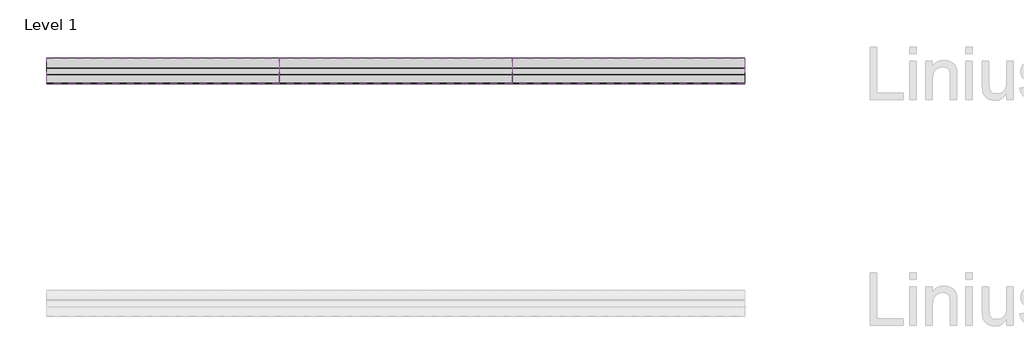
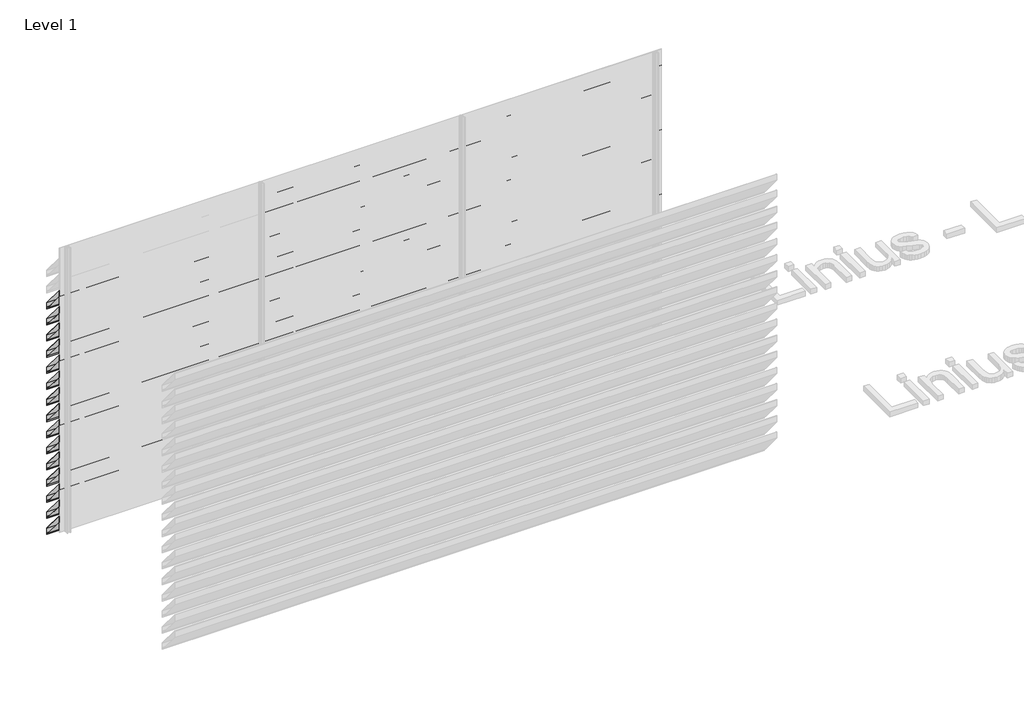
# One storey, part 14 of 121: 49 proxies.
"""IFC4 building model written with IfcOpenShell, lengths in millimetres."""

from ifc_helpers import new_model, si_unit, frame, origin, place, context, project, spatial, polyline, outline, extrude, element, save

model = new_model("IFC4")

# Units and contexts
model_context = context("Model", 3, world=origin())
ifc_project = project(units=[si_unit("LENGTHUNIT", "METRE", prefix="MILLI")], contexts=[model_context])

# Site, building, storey
site = spatial("IfcSite", under=ifc_project)
building = spatial("IfcBuilding", under=site)
storey = spatial("IfcBuildingStorey", under=building, Name="Level 1", Elevation=0.0)

# Proxies
placement = place(None, origin())
element("IfcBuildingElementProxy", 1, Name="Wall Sweeps", at=placement, inside=storey, context=model_context, shape_type="SweptSolid", body=[
    extrude(outline(polyline([(21705.0540136, 2291.0), (21705.0540136, 2222.0), (21702.5540136, 2223.1657691), (21702.5540136, 2236.7059843), (21685.8041465, 2256.6676986), (21675.1189071, 2256.6676986), (21483.0540136, 2485.5617253), (21483.0540136, 2550.0), (21487.7272091, 2550.0), (21705.0540136, 2291.0)]), holes=[polyline([(21486.8412246, 2548.1), (21484.9540136, 2548.1), (21484.9540136, 2486.2532688), (21676.0048916, 2258.5676986), (21686.6901311, 2258.5676986), (21703.1540136, 2238.9468074), (21703.1540136, 2290.3084566), (21486.8412246, 2548.1)])]), frame((466.6208097, 0.0, 0.0), z_axis=(1.0, 0.0, 0.0), x_axis=(0.0, 1.0, 0.0)), (0.0, 0.0, 1.0), 2000.0),
])
element("IfcBuildingElementProxy", 2, Name="Wall Sweeps", at=placement, inside=storey, context=model_context, shape_type="SweptSolid", body=[
    extrude(outline(polyline([(21705.0540136, 2121.0), (21705.0540136, 2052.0), (21702.5540136, 2053.1657691), (21702.5540136, 2066.7059843), (21685.8041465, 2086.6676986), (21675.1189071, 2086.6676986), (21483.0540136, 2315.5617253), (21483.0540136, 2380.0), (21487.7272091, 2380.0), (21705.0540136, 2121.0)]), holes=[polyline([(21486.8412246, 2378.1), (21484.9540136, 2378.1), (21484.9540136, 2316.2532688), (21676.0048916, 2088.5676986), (21686.6901311, 2088.5676986), (21703.1540136, 2068.9468074), (21703.1540136, 2120.3084566), (21486.8412246, 2378.1)])]), frame((466.6208097, 0.0, 0.0), z_axis=(1.0, 0.0, 0.0), x_axis=(0.0, 1.0, 0.0)), (0.0, 0.0, 1.0), 2000.0),
])
element("IfcBuildingElementProxy", 3, Name="Wall Sweeps", at=placement, inside=storey, context=model_context, shape_type="SweptSolid", body=[
    extrude(outline(polyline([(21705.0540136, 1951.0), (21705.0540136, 1882.0), (21702.5540136, 1883.1657691), (21702.5540136, 1896.7059843), (21685.8041465, 1916.6676986), (21675.1189071, 1916.6676986), (21483.0540136, 2145.5617253), (21483.0540136, 2210.0), (21487.7272091, 2210.0), (21705.0540136, 1951.0)]), holes=[polyline([(21486.8412246, 2208.1), (21484.9540136, 2208.1), (21484.9540136, 2146.2532688), (21676.0048916, 1918.5676986), (21686.6901311, 1918.5676986), (21703.1540136, 1898.9468074), (21703.1540136, 1950.3084566), (21486.8412246, 2208.1)])]), frame((466.6208097, 0.0, 0.0), z_axis=(1.0, 0.0, 0.0), x_axis=(0.0, 1.0, 0.0)), (0.0, 0.0, 1.0), 2000.0),
])
element("IfcBuildingElementProxy", 4, Name="Wall Sweeps", at=placement, inside=storey, context=model_context, shape_type="SweptSolid", body=[
    extrude(outline(polyline([(21705.0540136, 1781.0), (21705.0540136, 1712.0), (21702.5540136, 1713.1657691), (21702.5540136, 1726.7059843), (21685.8041465, 1746.6676986), (21675.1189071, 1746.6676986), (21483.0540136, 1975.5617253), (21483.0540136, 2040.0), (21487.7272091, 2040.0), (21705.0540136, 1781.0)]), holes=[polyline([(21486.8412246, 2038.1), (21484.9540136, 2038.1), (21484.9540136, 1976.2532688), (21676.0048916, 1748.5676986), (21686.6901311, 1748.5676986), (21703.1540136, 1728.9468074), (21703.1540136, 1780.3084566), (21486.8412246, 2038.1)])]), frame((466.6208097, 0.0, 0.0), z_axis=(1.0, 0.0, 0.0), x_axis=(0.0, 1.0, 0.0)), (0.0, 0.0, 1.0), 2000.0),
])
element("IfcBuildingElementProxy", 5, Name="Wall Sweeps", at=placement, inside=storey, context=model_context, shape_type="SweptSolid", body=[
    extrude(outline(polyline([(21705.0540136, 1611.0), (21705.0540136, 1542.0), (21702.5540136, 1543.1657691), (21702.5540136, 1556.7059843), (21685.8041465, 1576.6676986), (21675.1189071, 1576.6676986), (21483.0540136, 1805.5617253), (21483.0540136, 1870.0), (21487.7272091, 1870.0), (21705.0540136, 1611.0)]), holes=[polyline([(21486.8412246, 1868.1), (21484.9540136, 1868.1), (21484.9540136, 1806.2532688), (21676.0048916, 1578.5676986), (21686.6901311, 1578.5676986), (21703.1540136, 1558.9468074), (21703.1540136, 1610.3084566), (21486.8412246, 1868.1)])]), frame((466.6208097, 0.0, 0.0), z_axis=(1.0, 0.0, 0.0), x_axis=(0.0, 1.0, 0.0)), (0.0, 0.0, 1.0), 2000.0),
])
element("IfcBuildingElementProxy", 6, Name="Wall Sweeps", at=placement, inside=storey, context=model_context, shape_type="SweptSolid", body=[
    extrude(outline(polyline([(21705.0540136, 1441.0), (21705.0540136, 1372.0), (21702.5540136, 1373.1657691), (21702.5540136, 1386.7059843), (21685.8041465, 1406.6676986), (21675.1189071, 1406.6676986), (21483.0540136, 1635.5617253), (21483.0540136, 1700.0), (21487.7272091, 1700.0), (21705.0540136, 1441.0)]), holes=[polyline([(21486.8412246, 1698.1), (21484.9540136, 1698.1), (21484.9540136, 1636.2532688), (21676.0048916, 1408.5676986), (21686.6901311, 1408.5676986), (21703.1540136, 1388.9468074), (21703.1540136, 1440.3084566), (21486.8412246, 1698.1)])]), frame((466.6208097, 0.0, 0.0), z_axis=(1.0, 0.0, 0.0), x_axis=(0.0, 1.0, 0.0)), (0.0, 0.0, 1.0), 2000.0),
])
element("IfcBuildingElementProxy", 7, Name="Wall Sweeps", at=placement, inside=storey, context=model_context, shape_type="SweptSolid", body=[
    extrude(outline(polyline([(21705.0540136, 1271.0), (21705.0540136, 1202.0), (21702.5540136, 1203.1657691), (21702.5540136, 1216.7059843), (21685.8041465, 1236.6676986), (21675.1189071, 1236.6676986), (21483.0540136, 1465.5617253), (21483.0540136, 1530.0), (21487.7272091, 1530.0), (21705.0540136, 1271.0)]), holes=[polyline([(21486.8412246, 1528.1), (21484.9540136, 1528.1), (21484.9540136, 1466.2532688), (21676.0048916, 1238.5676986), (21686.6901311, 1238.5676986), (21703.1540136, 1218.9468074), (21703.1540136, 1270.3084566), (21486.8412246, 1528.1)])]), frame((466.6208097, 0.0, 0.0), z_axis=(1.0, 0.0, 0.0), x_axis=(0.0, 1.0, 0.0)), (0.0, 0.0, 1.0), 2000.0),
])
element("IfcBuildingElementProxy", 8, Name="Wall Sweeps", at=placement, inside=storey, context=model_context, shape_type="SweptSolid", body=[
    extrude(outline(polyline([(21705.0540136, 1101.0), (21705.0540136, 1032.0), (21702.5540136, 1033.1657691), (21702.5540136, 1046.7059843), (21685.8041465, 1066.6676986), (21675.1189071, 1066.6676986), (21483.0540136, 1295.5617253), (21483.0540136, 1360.0), (21487.7272091, 1360.0), (21705.0540136, 1101.0)]), holes=[polyline([(21486.8412246, 1358.1), (21484.9540136, 1358.1), (21484.9540136, 1296.2532688), (21676.0048916, 1068.5676986), (21686.6901311, 1068.5676986), (21703.1540136, 1048.9468074), (21703.1540136, 1100.3084566), (21486.8412246, 1358.1)])]), frame((466.6208097, 0.0, 0.0), z_axis=(1.0, 0.0, 0.0), x_axis=(0.0, 1.0, 0.0)), (0.0, 0.0, 1.0), 2000.0),
])
element("IfcBuildingElementProxy", 9, Name="Wall Sweeps", at=placement, inside=storey, context=model_context, shape_type="SweptSolid", body=[
    extrude(outline(polyline([(21705.0540136, 931.0), (21705.0540136, 862.0), (21702.5540136, 863.1657691), (21702.5540136, 876.7059843), (21685.8041465, 896.6676986), (21675.1189071, 896.6676986), (21483.0540136, 1125.5617253), (21483.0540136, 1190.0), (21487.7272091, 1190.0), (21705.0540136, 931.0)]), holes=[polyline([(21486.8412246, 1188.1), (21484.9540136, 1188.1), (21484.9540136, 1126.2532688), (21676.0048916, 898.5676986), (21686.6901311, 898.5676986), (21703.1540136, 878.9468074), (21703.1540136, 930.3084566), (21486.8412246, 1188.1)])]), frame((466.6208097, 0.0, 0.0), z_axis=(1.0, 0.0, 0.0), x_axis=(0.0, 1.0, 0.0)), (0.0, 0.0, 1.0), 2000.0),
])
element("IfcBuildingElementProxy", 10, Name="Wall Sweeps", at=placement, inside=storey, context=model_context, shape_type="SweptSolid", body=[
    extrude(outline(polyline([(21705.0540136, 761.0), (21705.0540136, 692.0), (21702.5540136, 693.1657691), (21702.5540136, 706.7059843), (21685.8041465, 726.6676986), (21675.1189071, 726.6676986), (21483.0540136, 955.5617253), (21483.0540136, 1020.0), (21487.7272091, 1020.0), (21705.0540136, 761.0)]), holes=[polyline([(21486.8412246, 1018.1), (21484.9540136, 1018.1), (21484.9540136, 956.2532688), (21676.0048916, 728.5676986), (21686.6901311, 728.5676986), (21703.1540136, 708.9468074), (21703.1540136, 760.3084566), (21486.8412246, 1018.1)])]), frame((466.6208097, 0.0, 0.0), z_axis=(1.0, 0.0, 0.0), x_axis=(0.0, 1.0, 0.0)), (0.0, 0.0, 1.0), 2000.0),
])
element("IfcBuildingElementProxy", 11, Name="Wall Sweeps", at=placement, inside=storey, context=model_context, shape_type="SweptSolid", body=[
    extrude(outline(polyline([(21705.0540136, 591.0), (21705.0540136, 522.0), (21702.5540136, 523.1657691), (21702.5540136, 536.7059843), (21685.8041465, 556.6676986), (21675.1189071, 556.6676986), (21483.0540136, 785.5617253), (21483.0540136, 850.0), (21487.7272091, 850.0), (21705.0540136, 591.0)]), holes=[polyline([(21486.8412246, 848.1), (21484.9540136, 848.1), (21484.9540136, 786.2532688), (21676.0048916, 558.5676986), (21686.6901311, 558.5676986), (21703.1540136, 538.9468074), (21703.1540136, 590.3084566), (21486.8412246, 848.1)])]), frame((466.6208097, 0.0, 0.0), z_axis=(1.0, 0.0, 0.0), x_axis=(0.0, 1.0, 0.0)), (0.0, 0.0, 1.0), 2000.0),
])
element("IfcBuildingElementProxy", 12, Name="Wall Sweeps", at=placement, inside=storey, context=model_context, shape_type="SweptSolid", body=[
    extrude(outline(polyline([(21705.0540136, 421.0), (21705.0540136, 352.0), (21702.5540136, 353.1657691), (21702.5540136, 366.7059843), (21685.8041465, 386.6676986), (21675.1189071, 386.6676986), (21483.0540136, 615.5617253), (21483.0540136, 680.0), (21487.7272091, 680.0), (21705.0540136, 421.0)]), holes=[polyline([(21486.8412246, 678.1), (21484.9540136, 678.1), (21484.9540136, 616.2532688), (21676.0048916, 388.5676986), (21686.6901311, 388.5676986), (21703.1540136, 368.9468074), (21703.1540136, 420.3084566), (21486.8412246, 678.1)])]), frame((466.6208097, 0.0, 0.0), z_axis=(1.0, 0.0, 0.0), x_axis=(0.0, 1.0, 0.0)), (0.0, 0.0, 1.0), 2000.0),
])
element("IfcBuildingElementProxy", 13, Name="Wall Sweeps", at=placement, inside=storey, context=model_context, shape_type="SweptSolid", body=[
    extrude(outline(polyline([(21705.0540136, 251.0), (21705.0540136, 182.0), (21702.5540136, 183.1657691), (21702.5540136, 196.7059843), (21685.8041465, 216.6676986), (21675.1189071, 216.6676986), (21483.0540136, 445.5617253), (21483.0540136, 510.0), (21487.7272091, 510.0), (21705.0540136, 251.0)]), holes=[polyline([(21486.8412246, 508.1), (21484.9540136, 508.1), (21484.9540136, 446.2532688), (21676.0048916, 218.5676986), (21686.6901311, 218.5676986), (21703.1540136, 198.9468074), (21703.1540136, 250.3084566), (21486.8412246, 508.1)])]), frame((466.6208097, 0.0, 0.0), z_axis=(1.0, 0.0, 0.0), x_axis=(0.0, 1.0, 0.0)), (0.0, 0.0, 1.0), 2000.0),
])
element("IfcBuildingElementProxy", 14, Name="Wall Sweeps", at=placement, inside=storey, context=model_context, shape_type="SweptSolid", body=[
    extrude(outline(polyline([(21705.0540136, 81.0), (21705.0540136, 12.0), (21702.5540136, 13.1657691), (21702.5540136, 26.7059843), (21685.8041465, 46.6676986), (21675.1189071, 46.6676986), (21483.0540136, 275.5617253), (21483.0540136, 340.0), (21487.7272091, 340.0), (21705.0540136, 81.0)]), holes=[polyline([(21486.8412246, 338.1), (21484.9540136, 338.1), (21484.9540136, 276.2532688), (21676.0048916, 48.5676986), (21686.6901311, 48.5676986), (21703.1540136, 28.9468074), (21703.1540136, 80.3084566), (21486.8412246, 338.1)])]), frame((466.6208097, 0.0, 0.0), z_axis=(1.0, 0.0, 0.0), x_axis=(0.0, 1.0, 0.0)), (0.0, 0.0, 1.0), 2000.0),
])
element("IfcBuildingElementProxy", 15, Name="Wall Sweeps", at=placement, inside=storey, context=model_context, shape_type="SweptSolid", body=[
    extrude(outline(polyline([(21705.0540136, -89.0), (21705.0540136, -158.0), (21702.5540136, -156.8342309), (21702.5540136, -143.2940157), (21685.8041465, -123.3323014), (21675.1189071, -123.3323014), (21483.0540136, 105.5617253), (21483.0540136, 170.0), (21487.7272091, 170.0), (21705.0540136, -89.0)]), holes=[polyline([(21486.8412246, 168.1), (21484.9540136, 168.1), (21484.9540136, 106.2532688), (21676.0048916, -121.4323014), (21686.6901311, -121.4323014), (21703.1540136, -141.0531926), (21703.1540136, -89.6915434), (21486.8412246, 168.1)])]), frame((466.6208097, 0.0, 0.0), z_axis=(1.0, 0.0, 0.0), x_axis=(0.0, 1.0, 0.0)), (0.0, 0.0, 1.0), 2000.0),
])
element("IfcBuildingElementProxy", 16, Name="Wall Sweeps", at=placement, inside=storey, context=model_context, shape_type="SweptSolid", body=[
    extrude(outline(polyline([(21705.0540136, 2631.0), (21705.0540136, 2562.0), (21702.5540136, 2563.1657691), (21702.5540136, 2576.7059843), (21685.8041465, 2596.6676986), (21675.1189071, 2596.6676986), (21483.0540136, 2825.5617253), (21483.0540136, 2890.0), (21487.7272091, 2890.0), (21705.0540136, 2631.0)]), holes=[polyline([(21486.8412246, 2888.1), (21484.9540136, 2888.1), (21484.9540136, 2826.2532688), (21676.0048916, 2598.5676986), (21686.6901311, 2598.5676986), (21703.1540136, 2578.9468074), (21703.1540136, 2630.3084566), (21486.8412246, 2888.1)])]), frame((2466.6208097, 0.0, 0.0), z_axis=(1.0, 0.0, 0.0), x_axis=(0.0, 1.0, 0.0)), (0.0, 0.0, 1.0), 2000.0),
])
element("IfcBuildingElementProxy", 17, Name="Wall Sweeps", at=placement, inside=storey, context=model_context, shape_type="SweptSolid", body=[
    extrude(outline(polyline([(21705.0540136, 2461.0), (21705.0540136, 2392.0), (21702.5540136, 2393.1657691), (21702.5540136, 2406.7059843), (21685.8041465, 2426.6676986), (21675.1189071, 2426.6676986), (21483.0540136, 2655.5617253), (21483.0540136, 2720.0), (21487.7272091, 2720.0), (21705.0540136, 2461.0)]), holes=[polyline([(21486.8412246, 2718.1), (21484.9540136, 2718.1), (21484.9540136, 2656.2532688), (21676.0048916, 2428.5676986), (21686.6901311, 2428.5676986), (21703.1540136, 2408.9468074), (21703.1540136, 2460.3084566), (21486.8412246, 2718.1)])]), frame((2466.6208097, 0.0, 0.0), z_axis=(1.0, 0.0, 0.0), x_axis=(0.0, 1.0, 0.0)), (0.0, 0.0, 1.0), 2000.0),
])
element("IfcBuildingElementProxy", 18, Name="Wall Sweeps", at=placement, inside=storey, context=model_context, shape_type="SweptSolid", body=[
    extrude(outline(polyline([(21705.0540136, 2291.0), (21705.0540136, 2222.0), (21702.5540136, 2223.1657691), (21702.5540136, 2236.7059843), (21685.8041465, 2256.6676986), (21675.1189071, 2256.6676986), (21483.0540136, 2485.5617253), (21483.0540136, 2550.0), (21487.7272091, 2550.0), (21705.0540136, 2291.0)]), holes=[polyline([(21486.8412246, 2548.1), (21484.9540136, 2548.1), (21484.9540136, 2486.2532688), (21676.0048916, 2258.5676986), (21686.6901311, 2258.5676986), (21703.1540136, 2238.9468074), (21703.1540136, 2290.3084566), (21486.8412246, 2548.1)])]), frame((2466.6208097, 0.0, 0.0), z_axis=(1.0, 0.0, 0.0), x_axis=(0.0, 1.0, 0.0)), (0.0, 0.0, 1.0), 2000.0),
])
element("IfcBuildingElementProxy", 19, Name="Wall Sweeps", at=placement, inside=storey, context=model_context, shape_type="SweptSolid", body=[
    extrude(outline(polyline([(21705.0540136, 2121.0), (21705.0540136, 2052.0), (21702.5540136, 2053.1657691), (21702.5540136, 2066.7059843), (21685.8041465, 2086.6676986), (21675.1189071, 2086.6676986), (21483.0540136, 2315.5617253), (21483.0540136, 2380.0), (21487.7272091, 2380.0), (21705.0540136, 2121.0)]), holes=[polyline([(21486.8412246, 2378.1), (21484.9540136, 2378.1), (21484.9540136, 2316.2532688), (21676.0048916, 2088.5676986), (21686.6901311, 2088.5676986), (21703.1540136, 2068.9468074), (21703.1540136, 2120.3084566), (21486.8412246, 2378.1)])]), frame((2466.6208097, 0.0, 0.0), z_axis=(1.0, 0.0, 0.0), x_axis=(0.0, 1.0, 0.0)), (0.0, 0.0, 1.0), 2000.0),
])
element("IfcBuildingElementProxy", 20, Name="Wall Sweeps", at=placement, inside=storey, context=model_context, shape_type="SweptSolid", body=[
    extrude(outline(polyline([(21705.0540136, 1951.0), (21705.0540136, 1882.0), (21702.5540136, 1883.1657691), (21702.5540136, 1896.7059843), (21685.8041465, 1916.6676986), (21675.1189071, 1916.6676986), (21483.0540136, 2145.5617253), (21483.0540136, 2210.0), (21487.7272091, 2210.0), (21705.0540136, 1951.0)]), holes=[polyline([(21486.8412246, 2208.1), (21484.9540136, 2208.1), (21484.9540136, 2146.2532688), (21676.0048916, 1918.5676986), (21686.6901311, 1918.5676986), (21703.1540136, 1898.9468074), (21703.1540136, 1950.3084566), (21486.8412246, 2208.1)])]), frame((2466.6208097, 0.0, 0.0), z_axis=(1.0, 0.0, 0.0), x_axis=(0.0, 1.0, 0.0)), (0.0, 0.0, 1.0), 2000.0),
])
element("IfcBuildingElementProxy", 21, Name="Wall Sweeps", at=placement, inside=storey, context=model_context, shape_type="SweptSolid", body=[
    extrude(outline(polyline([(21705.0540136, 1781.0), (21705.0540136, 1712.0), (21702.5540136, 1713.1657691), (21702.5540136, 1726.7059843), (21685.8041465, 1746.6676986), (21675.1189071, 1746.6676986), (21483.0540136, 1975.5617253), (21483.0540136, 2040.0), (21487.7272091, 2040.0), (21705.0540136, 1781.0)]), holes=[polyline([(21486.8412246, 2038.1), (21484.9540136, 2038.1), (21484.9540136, 1976.2532688), (21676.0048916, 1748.5676986), (21686.6901311, 1748.5676986), (21703.1540136, 1728.9468074), (21703.1540136, 1780.3084566), (21486.8412246, 2038.1)])]), frame((2466.6208097, 0.0, 0.0), z_axis=(1.0, 0.0, 0.0), x_axis=(0.0, 1.0, 0.0)), (0.0, 0.0, 1.0), 2000.0),
])
element("IfcBuildingElementProxy", 22, Name="Wall Sweeps", at=placement, inside=storey, context=model_context, shape_type="SweptSolid", body=[
    extrude(outline(polyline([(21705.0540136, 1611.0), (21705.0540136, 1542.0), (21702.5540136, 1543.1657691), (21702.5540136, 1556.7059843), (21685.8041465, 1576.6676986), (21675.1189071, 1576.6676986), (21483.0540136, 1805.5617253), (21483.0540136, 1870.0), (21487.7272091, 1870.0), (21705.0540136, 1611.0)]), holes=[polyline([(21486.8412246, 1868.1), (21484.9540136, 1868.1), (21484.9540136, 1806.2532688), (21676.0048916, 1578.5676986), (21686.6901311, 1578.5676986), (21703.1540136, 1558.9468074), (21703.1540136, 1610.3084566), (21486.8412246, 1868.1)])]), frame((2466.6208097, 0.0, 0.0), z_axis=(1.0, 0.0, 0.0), x_axis=(0.0, 1.0, 0.0)), (0.0, 0.0, 1.0), 2000.0),
])
element("IfcBuildingElementProxy", 23, Name="Wall Sweeps", at=placement, inside=storey, context=model_context, shape_type="SweptSolid", body=[
    extrude(outline(polyline([(21705.0540136, 1441.0), (21705.0540136, 1372.0), (21702.5540136, 1373.1657691), (21702.5540136, 1386.7059843), (21685.8041465, 1406.6676986), (21675.1189071, 1406.6676986), (21483.0540136, 1635.5617253), (21483.0540136, 1700.0), (21487.7272091, 1700.0), (21705.0540136, 1441.0)]), holes=[polyline([(21486.8412246, 1698.1), (21484.9540136, 1698.1), (21484.9540136, 1636.2532688), (21676.0048916, 1408.5676986), (21686.6901311, 1408.5676986), (21703.1540136, 1388.9468074), (21703.1540136, 1440.3084566), (21486.8412246, 1698.1)])]), frame((2466.6208097, 0.0, 0.0), z_axis=(1.0, 0.0, 0.0), x_axis=(0.0, 1.0, 0.0)), (0.0, 0.0, 1.0), 2000.0),
])
element("IfcBuildingElementProxy", 24, Name="Wall Sweeps", at=placement, inside=storey, context=model_context, shape_type="SweptSolid", body=[
    extrude(outline(polyline([(21705.0540136, 1271.0), (21705.0540136, 1202.0), (21702.5540136, 1203.1657691), (21702.5540136, 1216.7059843), (21685.8041465, 1236.6676986), (21675.1189071, 1236.6676986), (21483.0540136, 1465.5617253), (21483.0540136, 1530.0), (21487.7272091, 1530.0), (21705.0540136, 1271.0)]), holes=[polyline([(21486.8412246, 1528.1), (21484.9540136, 1528.1), (21484.9540136, 1466.2532688), (21676.0048916, 1238.5676986), (21686.6901311, 1238.5676986), (21703.1540136, 1218.9468074), (21703.1540136, 1270.3084566), (21486.8412246, 1528.1)])]), frame((2466.6208097, 0.0, 0.0), z_axis=(1.0, 0.0, 0.0), x_axis=(0.0, 1.0, 0.0)), (0.0, 0.0, 1.0), 2000.0),
])
element("IfcBuildingElementProxy", 25, Name="Wall Sweeps", at=placement, inside=storey, context=model_context, shape_type="SweptSolid", body=[
    extrude(outline(polyline([(21705.0540136, 1101.0), (21705.0540136, 1032.0), (21702.5540136, 1033.1657691), (21702.5540136, 1046.7059843), (21685.8041465, 1066.6676986), (21675.1189071, 1066.6676986), (21483.0540136, 1295.5617253), (21483.0540136, 1360.0), (21487.7272091, 1360.0), (21705.0540136, 1101.0)]), holes=[polyline([(21486.8412246, 1358.1), (21484.9540136, 1358.1), (21484.9540136, 1296.2532688), (21676.0048916, 1068.5676986), (21686.6901311, 1068.5676986), (21703.1540136, 1048.9468074), (21703.1540136, 1100.3084566), (21486.8412246, 1358.1)])]), frame((2466.6208097, 0.0, 0.0), z_axis=(1.0, 0.0, 0.0), x_axis=(0.0, 1.0, 0.0)), (0.0, 0.0, 1.0), 2000.0),
])
element("IfcBuildingElementProxy", 26, Name="Wall Sweeps", at=placement, inside=storey, context=model_context, shape_type="SweptSolid", body=[
    extrude(outline(polyline([(21705.0540136, 931.0), (21705.0540136, 862.0), (21702.5540136, 863.1657691), (21702.5540136, 876.7059843), (21685.8041465, 896.6676986), (21675.1189071, 896.6676986), (21483.0540136, 1125.5617253), (21483.0540136, 1190.0), (21487.7272091, 1190.0), (21705.0540136, 931.0)]), holes=[polyline([(21486.8412246, 1188.1), (21484.9540136, 1188.1), (21484.9540136, 1126.2532688), (21676.0048916, 898.5676986), (21686.6901311, 898.5676986), (21703.1540136, 878.9468074), (21703.1540136, 930.3084566), (21486.8412246, 1188.1)])]), frame((2466.6208097, 0.0, 0.0), z_axis=(1.0, 0.0, 0.0), x_axis=(0.0, 1.0, 0.0)), (0.0, 0.0, 1.0), 2000.0),
])
element("IfcBuildingElementProxy", 27, Name="Wall Sweeps", at=placement, inside=storey, context=model_context, shape_type="SweptSolid", body=[
    extrude(outline(polyline([(21705.0540136, 761.0), (21705.0540136, 692.0), (21702.5540136, 693.1657691), (21702.5540136, 706.7059843), (21685.8041465, 726.6676986), (21675.1189071, 726.6676986), (21483.0540136, 955.5617253), (21483.0540136, 1020.0), (21487.7272091, 1020.0), (21705.0540136, 761.0)]), holes=[polyline([(21486.8412246, 1018.1), (21484.9540136, 1018.1), (21484.9540136, 956.2532688), (21676.0048916, 728.5676986), (21686.6901311, 728.5676986), (21703.1540136, 708.9468074), (21703.1540136, 760.3084566), (21486.8412246, 1018.1)])]), frame((2466.6208097, 0.0, 0.0), z_axis=(1.0, 0.0, 0.0), x_axis=(0.0, 1.0, 0.0)), (0.0, 0.0, 1.0), 2000.0),
])
element("IfcBuildingElementProxy", 28, Name="Wall Sweeps", at=placement, inside=storey, context=model_context, shape_type="SweptSolid", body=[
    extrude(outline(polyline([(21705.0540136, 591.0), (21705.0540136, 522.0), (21702.5540136, 523.1657691), (21702.5540136, 536.7059843), (21685.8041465, 556.6676986), (21675.1189071, 556.6676986), (21483.0540136, 785.5617253), (21483.0540136, 850.0), (21487.7272091, 850.0), (21705.0540136, 591.0)]), holes=[polyline([(21486.8412246, 848.1), (21484.9540136, 848.1), (21484.9540136, 786.2532688), (21676.0048916, 558.5676986), (21686.6901311, 558.5676986), (21703.1540136, 538.9468074), (21703.1540136, 590.3084566), (21486.8412246, 848.1)])]), frame((2466.6208097, 0.0, 0.0), z_axis=(1.0, 0.0, 0.0), x_axis=(0.0, 1.0, 0.0)), (0.0, 0.0, 1.0), 2000.0),
])
element("IfcBuildingElementProxy", 29, Name="Wall Sweeps", at=placement, inside=storey, context=model_context, shape_type="SweptSolid", body=[
    extrude(outline(polyline([(21705.0540136, 421.0), (21705.0540136, 352.0), (21702.5540136, 353.1657691), (21702.5540136, 366.7059843), (21685.8041465, 386.6676986), (21675.1189071, 386.6676986), (21483.0540136, 615.5617253), (21483.0540136, 680.0), (21487.7272091, 680.0), (21705.0540136, 421.0)]), holes=[polyline([(21486.8412246, 678.1), (21484.9540136, 678.1), (21484.9540136, 616.2532688), (21676.0048916, 388.5676986), (21686.6901311, 388.5676986), (21703.1540136, 368.9468074), (21703.1540136, 420.3084566), (21486.8412246, 678.1)])]), frame((2466.6208097, 0.0, 0.0), z_axis=(1.0, 0.0, 0.0), x_axis=(0.0, 1.0, 0.0)), (0.0, 0.0, 1.0), 2000.0),
])
element("IfcBuildingElementProxy", 30, Name="Wall Sweeps", at=placement, inside=storey, context=model_context, shape_type="SweptSolid", body=[
    extrude(outline(polyline([(21705.0540136, 251.0), (21705.0540136, 182.0), (21702.5540136, 183.1657691), (21702.5540136, 196.7059843), (21685.8041465, 216.6676986), (21675.1189071, 216.6676986), (21483.0540136, 445.5617253), (21483.0540136, 510.0), (21487.7272091, 510.0), (21705.0540136, 251.0)]), holes=[polyline([(21486.8412246, 508.1), (21484.9540136, 508.1), (21484.9540136, 446.2532688), (21676.0048916, 218.5676986), (21686.6901311, 218.5676986), (21703.1540136, 198.9468074), (21703.1540136, 250.3084566), (21486.8412246, 508.1)])]), frame((2466.6208097, 0.0, 0.0), z_axis=(1.0, 0.0, 0.0), x_axis=(0.0, 1.0, 0.0)), (0.0, 0.0, 1.0), 2000.0),
])
element("IfcBuildingElementProxy", 31, Name="Wall Sweeps", at=placement, inside=storey, context=model_context, shape_type="SweptSolid", body=[
    extrude(outline(polyline([(21705.0540136, 81.0), (21705.0540136, 12.0), (21702.5540136, 13.1657691), (21702.5540136, 26.7059843), (21685.8041465, 46.6676986), (21675.1189071, 46.6676986), (21483.0540136, 275.5617253), (21483.0540136, 340.0), (21487.7272091, 340.0), (21705.0540136, 81.0)]), holes=[polyline([(21486.8412246, 338.1), (21484.9540136, 338.1), (21484.9540136, 276.2532688), (21676.0048916, 48.5676986), (21686.6901311, 48.5676986), (21703.1540136, 28.9468074), (21703.1540136, 80.3084566), (21486.8412246, 338.1)])]), frame((2466.6208097, 0.0, 0.0), z_axis=(1.0, 0.0, 0.0), x_axis=(0.0, 1.0, 0.0)), (0.0, 0.0, 1.0), 2000.0),
])
element("IfcBuildingElementProxy", 32, Name="Wall Sweeps", at=placement, inside=storey, context=model_context, shape_type="SweptSolid", body=[
    extrude(outline(polyline([(21705.0540136, -89.0), (21705.0540136, -158.0), (21702.5540136, -156.8342309), (21702.5540136, -143.2940157), (21685.8041465, -123.3323014), (21675.1189071, -123.3323014), (21483.0540136, 105.5617253), (21483.0540136, 170.0), (21487.7272091, 170.0), (21705.0540136, -89.0)]), holes=[polyline([(21486.8412246, 168.1), (21484.9540136, 168.1), (21484.9540136, 106.2532688), (21676.0048916, -121.4323014), (21686.6901311, -121.4323014), (21703.1540136, -141.0531926), (21703.1540136, -89.6915434), (21486.8412246, 168.1)])]), frame((2466.6208097, 0.0, 0.0), z_axis=(1.0, 0.0, 0.0), x_axis=(0.0, 1.0, 0.0)), (0.0, 0.0, 1.0), 2000.0),
])
element("IfcBuildingElementProxy", 33, Name="Wall Sweeps", at=placement, inside=storey, context=model_context, shape_type="SweptSolid", body=[
    extrude(outline(polyline([(21705.0540136, 2631.0), (21705.0540136, 2562.0), (21702.5540136, 2563.1657691), (21702.5540136, 2576.7059843), (21685.8041465, 2596.6676986), (21675.1189071, 2596.6676986), (21483.0540136, 2825.5617253), (21483.0540136, 2890.0), (21487.7272091, 2890.0), (21705.0540136, 2631.0)]), holes=[polyline([(21486.8412246, 2888.1), (21484.9540136, 2888.1), (21484.9540136, 2826.2532688), (21676.0048916, 2598.5676986), (21686.6901311, 2598.5676986), (21703.1540136, 2578.9468074), (21703.1540136, 2630.3084566), (21486.8412246, 2888.1)])]), frame((4466.6208097, 0.0, 0.0), z_axis=(1.0, 0.0, 0.0), x_axis=(0.0, 1.0, 0.0)), (0.0, 0.0, 1.0), 2000.0),
])
element("IfcBuildingElementProxy", 34, Name="Wall Sweeps", at=placement, inside=storey, context=model_context, shape_type="SweptSolid", body=[
    extrude(outline(polyline([(21705.0540136, 2461.0), (21705.0540136, 2392.0), (21702.5540136, 2393.1657691), (21702.5540136, 2406.7059843), (21685.8041465, 2426.6676986), (21675.1189071, 2426.6676986), (21483.0540136, 2655.5617253), (21483.0540136, 2720.0), (21487.7272091, 2720.0), (21705.0540136, 2461.0)]), holes=[polyline([(21486.8412246, 2718.1), (21484.9540136, 2718.1), (21484.9540136, 2656.2532688), (21676.0048916, 2428.5676986), (21686.6901311, 2428.5676986), (21703.1540136, 2408.9468074), (21703.1540136, 2460.3084566), (21486.8412246, 2718.1)])]), frame((4466.6208097, 0.0, 0.0), z_axis=(1.0, 0.0, 0.0), x_axis=(0.0, 1.0, 0.0)), (0.0, 0.0, 1.0), 2000.0),
])
element("IfcBuildingElementProxy", 35, Name="Wall Sweeps", at=placement, inside=storey, context=model_context, shape_type="SweptSolid", body=[
    extrude(outline(polyline([(21705.0540136, 2291.0), (21705.0540136, 2222.0), (21702.5540136, 2223.1657691), (21702.5540136, 2236.7059843), (21685.8041465, 2256.6676986), (21675.1189071, 2256.6676986), (21483.0540136, 2485.5617253), (21483.0540136, 2550.0), (21487.7272091, 2550.0), (21705.0540136, 2291.0)]), holes=[polyline([(21486.8412246, 2548.1), (21484.9540136, 2548.1), (21484.9540136, 2486.2532688), (21676.0048916, 2258.5676986), (21686.6901311, 2258.5676986), (21703.1540136, 2238.9468074), (21703.1540136, 2290.3084566), (21486.8412246, 2548.1)])]), frame((4466.6208097, 0.0, 0.0), z_axis=(1.0, 0.0, 0.0), x_axis=(0.0, 1.0, 0.0)), (0.0, 0.0, 1.0), 2000.0),
])
element("IfcBuildingElementProxy", 36, Name="Wall Sweeps", at=placement, inside=storey, context=model_context, shape_type="SweptSolid", body=[
    extrude(outline(polyline([(21705.0540136, 2121.0), (21705.0540136, 2052.0), (21702.5540136, 2053.1657691), (21702.5540136, 2066.7059843), (21685.8041465, 2086.6676986), (21675.1189071, 2086.6676986), (21483.0540136, 2315.5617253), (21483.0540136, 2380.0), (21487.7272091, 2380.0), (21705.0540136, 2121.0)]), holes=[polyline([(21486.8412246, 2378.1), (21484.9540136, 2378.1), (21484.9540136, 2316.2532688), (21676.0048916, 2088.5676986), (21686.6901311, 2088.5676986), (21703.1540136, 2068.9468074), (21703.1540136, 2120.3084566), (21486.8412246, 2378.1)])]), frame((4466.6208097, 0.0, 0.0), z_axis=(1.0, 0.0, 0.0), x_axis=(0.0, 1.0, 0.0)), (0.0, 0.0, 1.0), 2000.0),
])
element("IfcBuildingElementProxy", 37, Name="Wall Sweeps", at=placement, inside=storey, context=model_context, shape_type="SweptSolid", body=[
    extrude(outline(polyline([(21705.0540136, 1951.0), (21705.0540136, 1882.0), (21702.5540136, 1883.1657691), (21702.5540136, 1896.7059843), (21685.8041465, 1916.6676986), (21675.1189071, 1916.6676986), (21483.0540136, 2145.5617253), (21483.0540136, 2210.0), (21487.7272091, 2210.0), (21705.0540136, 1951.0)]), holes=[polyline([(21486.8412246, 2208.1), (21484.9540136, 2208.1), (21484.9540136, 2146.2532688), (21676.0048916, 1918.5676986), (21686.6901311, 1918.5676986), (21703.1540136, 1898.9468074), (21703.1540136, 1950.3084566), (21486.8412246, 2208.1)])]), frame((4466.6208097, 0.0, 0.0), z_axis=(1.0, 0.0, 0.0), x_axis=(0.0, 1.0, 0.0)), (0.0, 0.0, 1.0), 2000.0),
])
element("IfcBuildingElementProxy", 38, Name="Wall Sweeps", at=placement, inside=storey, context=model_context, shape_type="SweptSolid", body=[
    extrude(outline(polyline([(21705.0540136, 1781.0), (21705.0540136, 1712.0), (21702.5540136, 1713.1657691), (21702.5540136, 1726.7059843), (21685.8041465, 1746.6676986), (21675.1189071, 1746.6676986), (21483.0540136, 1975.5617253), (21483.0540136, 2040.0), (21487.7272091, 2040.0), (21705.0540136, 1781.0)]), holes=[polyline([(21486.8412246, 2038.1), (21484.9540136, 2038.1), (21484.9540136, 1976.2532688), (21676.0048916, 1748.5676986), (21686.6901311, 1748.5676986), (21703.1540136, 1728.9468074), (21703.1540136, 1780.3084566), (21486.8412246, 2038.1)])]), frame((4466.6208097, 0.0, 0.0), z_axis=(1.0, 0.0, 0.0), x_axis=(0.0, 1.0, 0.0)), (0.0, 0.0, 1.0), 2000.0),
])
element("IfcBuildingElementProxy", 39, Name="Wall Sweeps", at=placement, inside=storey, context=model_context, shape_type="SweptSolid", body=[
    extrude(outline(polyline([(21705.0540136, 1611.0), (21705.0540136, 1542.0), (21702.5540136, 1543.1657691), (21702.5540136, 1556.7059843), (21685.8041465, 1576.6676986), (21675.1189071, 1576.6676986), (21483.0540136, 1805.5617253), (21483.0540136, 1870.0), (21487.7272091, 1870.0), (21705.0540136, 1611.0)]), holes=[polyline([(21486.8412246, 1868.1), (21484.9540136, 1868.1), (21484.9540136, 1806.2532688), (21676.0048916, 1578.5676986), (21686.6901311, 1578.5676986), (21703.1540136, 1558.9468074), (21703.1540136, 1610.3084566), (21486.8412246, 1868.1)])]), frame((4466.6208097, 0.0, 0.0), z_axis=(1.0, 0.0, 0.0), x_axis=(0.0, 1.0, 0.0)), (0.0, 0.0, 1.0), 2000.0),
])
element("IfcBuildingElementProxy", 40, Name="Wall Sweeps", at=placement, inside=storey, context=model_context, shape_type="SweptSolid", body=[
    extrude(outline(polyline([(21705.0540136, 1441.0), (21705.0540136, 1372.0), (21702.5540136, 1373.1657691), (21702.5540136, 1386.7059843), (21685.8041465, 1406.6676986), (21675.1189071, 1406.6676986), (21483.0540136, 1635.5617253), (21483.0540136, 1700.0), (21487.7272091, 1700.0), (21705.0540136, 1441.0)]), holes=[polyline([(21486.8412246, 1698.1), (21484.9540136, 1698.1), (21484.9540136, 1636.2532688), (21676.0048916, 1408.5676986), (21686.6901311, 1408.5676986), (21703.1540136, 1388.9468074), (21703.1540136, 1440.3084566), (21486.8412246, 1698.1)])]), frame((4466.6208097, 0.0, 0.0), z_axis=(1.0, 0.0, 0.0), x_axis=(0.0, 1.0, 0.0)), (0.0, 0.0, 1.0), 2000.0),
])
element("IfcBuildingElementProxy", 41, Name="Wall Sweeps", at=placement, inside=storey, context=model_context, shape_type="SweptSolid", body=[
    extrude(outline(polyline([(21705.0540136, 1271.0), (21705.0540136, 1202.0), (21702.5540136, 1203.1657691), (21702.5540136, 1216.7059843), (21685.8041465, 1236.6676986), (21675.1189071, 1236.6676986), (21483.0540136, 1465.5617253), (21483.0540136, 1530.0), (21487.7272091, 1530.0), (21705.0540136, 1271.0)]), holes=[polyline([(21486.8412246, 1528.1), (21484.9540136, 1528.1), (21484.9540136, 1466.2532688), (21676.0048916, 1238.5676986), (21686.6901311, 1238.5676986), (21703.1540136, 1218.9468074), (21703.1540136, 1270.3084566), (21486.8412246, 1528.1)])]), frame((4466.6208097, 0.0, 0.0), z_axis=(1.0, 0.0, 0.0), x_axis=(0.0, 1.0, 0.0)), (0.0, 0.0, 1.0), 2000.0),
])
element("IfcBuildingElementProxy", 42, Name="Wall Sweeps", at=placement, inside=storey, context=model_context, shape_type="SweptSolid", body=[
    extrude(outline(polyline([(21705.0540136, 1101.0), (21705.0540136, 1032.0), (21702.5540136, 1033.1657691), (21702.5540136, 1046.7059843), (21685.8041465, 1066.6676986), (21675.1189071, 1066.6676986), (21483.0540136, 1295.5617253), (21483.0540136, 1360.0), (21487.7272091, 1360.0), (21705.0540136, 1101.0)]), holes=[polyline([(21486.8412246, 1358.1), (21484.9540136, 1358.1), (21484.9540136, 1296.2532688), (21676.0048916, 1068.5676986), (21686.6901311, 1068.5676986), (21703.1540136, 1048.9468074), (21703.1540136, 1100.3084566), (21486.8412246, 1358.1)])]), frame((4466.6208097, 0.0, 0.0), z_axis=(1.0, 0.0, 0.0), x_axis=(0.0, 1.0, 0.0)), (0.0, 0.0, 1.0), 2000.0),
])
element("IfcBuildingElementProxy", 43, Name="Wall Sweeps", at=placement, inside=storey, context=model_context, shape_type="SweptSolid", body=[
    extrude(outline(polyline([(21705.0540136, 931.0), (21705.0540136, 862.0), (21702.5540136, 863.1657691), (21702.5540136, 876.7059843), (21685.8041465, 896.6676986), (21675.1189071, 896.6676986), (21483.0540136, 1125.5617253), (21483.0540136, 1190.0), (21487.7272091, 1190.0), (21705.0540136, 931.0)]), holes=[polyline([(21486.8412246, 1188.1), (21484.9540136, 1188.1), (21484.9540136, 1126.2532688), (21676.0048916, 898.5676986), (21686.6901311, 898.5676986), (21703.1540136, 878.9468074), (21703.1540136, 930.3084566), (21486.8412246, 1188.1)])]), frame((4466.6208097, 0.0, 0.0), z_axis=(1.0, 0.0, 0.0), x_axis=(0.0, 1.0, 0.0)), (0.0, 0.0, 1.0), 2000.0),
])
element("IfcBuildingElementProxy", 44, Name="Wall Sweeps", at=placement, inside=storey, context=model_context, shape_type="SweptSolid", body=[
    extrude(outline(polyline([(21705.0540136, 761.0), (21705.0540136, 692.0), (21702.5540136, 693.1657691), (21702.5540136, 706.7059843), (21685.8041465, 726.6676986), (21675.1189071, 726.6676986), (21483.0540136, 955.5617253), (21483.0540136, 1020.0), (21487.7272091, 1020.0), (21705.0540136, 761.0)]), holes=[polyline([(21486.8412246, 1018.1), (21484.9540136, 1018.1), (21484.9540136, 956.2532688), (21676.0048916, 728.5676986), (21686.6901311, 728.5676986), (21703.1540136, 708.9468074), (21703.1540136, 760.3084566), (21486.8412246, 1018.1)])]), frame((4466.6208097, 0.0, 0.0), z_axis=(1.0, 0.0, 0.0), x_axis=(0.0, 1.0, 0.0)), (0.0, 0.0, 1.0), 2000.0),
])
element("IfcBuildingElementProxy", 45, Name="Wall Sweeps", at=placement, inside=storey, context=model_context, shape_type="SweptSolid", body=[
    extrude(outline(polyline([(21705.0540136, 591.0), (21705.0540136, 522.0), (21702.5540136, 523.1657691), (21702.5540136, 536.7059843), (21685.8041465, 556.6676986), (21675.1189071, 556.6676986), (21483.0540136, 785.5617253), (21483.0540136, 850.0), (21487.7272091, 850.0), (21705.0540136, 591.0)]), holes=[polyline([(21486.8412246, 848.1), (21484.9540136, 848.1), (21484.9540136, 786.2532688), (21676.0048916, 558.5676986), (21686.6901311, 558.5676986), (21703.1540136, 538.9468074), (21703.1540136, 590.3084566), (21486.8412246, 848.1)])]), frame((4466.6208097, 0.0, 0.0), z_axis=(1.0, 0.0, 0.0), x_axis=(0.0, 1.0, 0.0)), (0.0, 0.0, 1.0), 2000.0),
])
element("IfcBuildingElementProxy", 46, Name="Wall Sweeps", at=placement, inside=storey, context=model_context, shape_type="SweptSolid", body=[
    extrude(outline(polyline([(21705.0540136, 421.0), (21705.0540136, 352.0), (21702.5540136, 353.1657691), (21702.5540136, 366.7059843), (21685.8041465, 386.6676986), (21675.1189071, 386.6676986), (21483.0540136, 615.5617253), (21483.0540136, 680.0), (21487.7272091, 680.0), (21705.0540136, 421.0)]), holes=[polyline([(21486.8412246, 678.1), (21484.9540136, 678.1), (21484.9540136, 616.2532688), (21676.0048916, 388.5676986), (21686.6901311, 388.5676986), (21703.1540136, 368.9468074), (21703.1540136, 420.3084566), (21486.8412246, 678.1)])]), frame((4466.6208097, 0.0, 0.0), z_axis=(1.0, 0.0, 0.0), x_axis=(0.0, 1.0, 0.0)), (0.0, 0.0, 1.0), 2000.0),
])
element("IfcBuildingElementProxy", 47, Name="Wall Sweeps", at=placement, inside=storey, context=model_context, shape_type="SweptSolid", body=[
    extrude(outline(polyline([(21705.0540136, 251.0), (21705.0540136, 182.0), (21702.5540136, 183.1657691), (21702.5540136, 196.7059843), (21685.8041465, 216.6676986), (21675.1189071, 216.6676986), (21483.0540136, 445.5617253), (21483.0540136, 510.0), (21487.7272091, 510.0), (21705.0540136, 251.0)]), holes=[polyline([(21486.8412246, 508.1), (21484.9540136, 508.1), (21484.9540136, 446.2532688), (21676.0048916, 218.5676986), (21686.6901311, 218.5676986), (21703.1540136, 198.9468074), (21703.1540136, 250.3084566), (21486.8412246, 508.1)])]), frame((4466.6208097, 0.0, 0.0), z_axis=(1.0, 0.0, 0.0), x_axis=(0.0, 1.0, 0.0)), (0.0, 0.0, 1.0), 2000.0),
])
element("IfcBuildingElementProxy", 48, Name="Wall Sweeps", at=placement, inside=storey, context=model_context, shape_type="SweptSolid", body=[
    extrude(outline(polyline([(21705.0540136, 81.0), (21705.0540136, 12.0), (21702.5540136, 13.1657691), (21702.5540136, 26.7059843), (21685.8041465, 46.6676986), (21675.1189071, 46.6676986), (21483.0540136, 275.5617253), (21483.0540136, 340.0), (21487.7272091, 340.0), (21705.0540136, 81.0)]), holes=[polyline([(21486.8412246, 338.1), (21484.9540136, 338.1), (21484.9540136, 276.2532688), (21676.0048916, 48.5676986), (21686.6901311, 48.5676986), (21703.1540136, 28.9468074), (21703.1540136, 80.3084566), (21486.8412246, 338.1)])]), frame((4466.6208097, 0.0, 0.0), z_axis=(1.0, 0.0, 0.0), x_axis=(0.0, 1.0, 0.0)), (0.0, 0.0, 1.0), 2000.0),
])
element("IfcBuildingElementProxy", 49, Name="Wall Sweeps", at=placement, inside=storey, context=model_context, shape_type="SweptSolid", body=[
    extrude(outline(polyline([(21705.0540136, -89.0), (21705.0540136, -158.0), (21702.5540136, -156.8342309), (21702.5540136, -143.2940157), (21685.8041465, -123.3323014), (21675.1189071, -123.3323014), (21483.0540136, 105.5617253), (21483.0540136, 170.0), (21487.7272091, 170.0), (21705.0540136, -89.0)]), holes=[polyline([(21486.8412246, 168.1), (21484.9540136, 168.1), (21484.9540136, 106.2532688), (21676.0048916, -121.4323014), (21686.6901311, -121.4323014), (21703.1540136, -141.0531926), (21703.1540136, -89.6915434), (21486.8412246, 168.1)])]), frame((4466.6208097, 0.0, 0.0), z_axis=(1.0, 0.0, 0.0), x_axis=(0.0, 1.0, 0.0)), (0.0, 0.0, 1.0), 2000.0),
])

save(model, "model.ifc")
